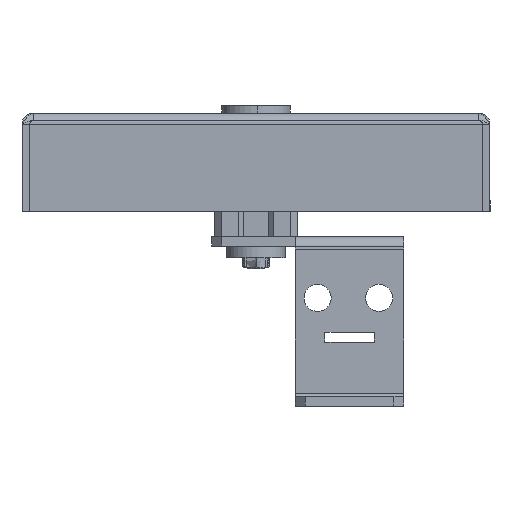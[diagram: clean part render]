
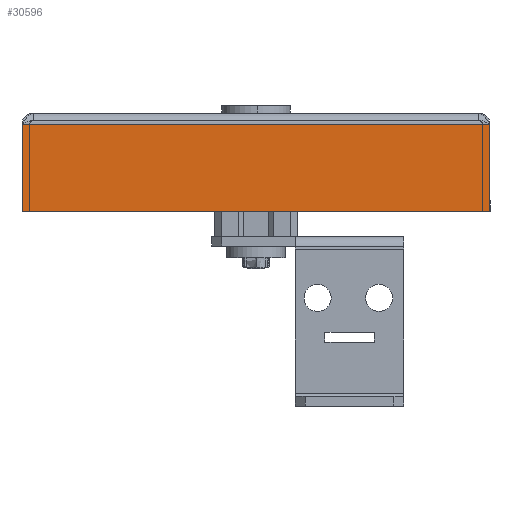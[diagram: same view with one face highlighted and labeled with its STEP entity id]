
A CAD part, left-side view. The second image highlights one B-rep face of the part: STEP entity #30596.
In plain terms, the highlighted planar face has unit normal (-1, 0, 0).
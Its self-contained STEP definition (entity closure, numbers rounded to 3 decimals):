
#22461=CARTESIAN_POINT(' ',(0.,0.,-2.3));
#22462=VERTEX_POINT(' ',#22461);
#22801=CARTESIAN_POINT(' ',(0.,95.,-2.3));
#22802=VERTEX_POINT(' ',#22801);
#27276=CARTESIAN_POINT(' ',(0.,95.,-2.3));
#27281=DIRECTION(' ',(0.,-1.,0.));
#27286=VECTOR(' ',#27281,1.);
#27291=LINE('',#27276,#27286);
#27296=EDGE_CURVE(' ',#22802,#22462,#27291,.T.);
#27361=CARTESIAN_POINT(' ',(0.,0.,-20.));
#27366=DIRECTION(' ',(0.,0.,1.));
#27371=VECTOR(' ',#27366,1.);
#27376=LINE('',#27361,#27371);
#27381=CARTESIAN_POINT(' ',(0.,0.,-20.));
#27382=VERTEX_POINT(' ',#27381);
#27386=EDGE_CURVE(' ',#27382,#22462,#27376,.T.);
#27471=CARTESIAN_POINT(' ',(0.,95.,-20.));
#27476=DIRECTION(' ',(0.,-1.,0.));
#27481=VECTOR(' ',#27476,1.);
#27486=LINE('',#27471,#27481);
#27491=CARTESIAN_POINT(' ',(0.,95.,-20.));
#27492=VERTEX_POINT(' ',#27491);
#27496=EDGE_CURVE(' ',#27492,#27382,#27486,.T.);
#27581=CARTESIAN_POINT(' ',(0.,95.,-20.));
#27586=DIRECTION(' ',(0.,0.,1.));
#27591=VECTOR(' ',#27586,1.);
#27596=LINE('',#27581,#27591);
#27601=EDGE_CURVE(' ',#27492,#22802,#27596,.T.);
#30541=DIRECTION(' ',(-1.,-0.,-0.));
#30546=CARTESIAN_POINT(' ',(0.,0.,-2.3));
#30551=DIRECTION(' ',(-0.,1.,0.));
#30556=AXIS2_PLACEMENT_3D(' ',#30546,#30541,#30551);
#30561=PLANE('NONE',#30556);
#30566=ORIENTED_EDGE(' ',*,*,#27386,.T.);
#30571=ORIENTED_EDGE(' ',*,*,#27296,.F.);
#30576=ORIENTED_EDGE(' ',*,*,#27601,.F.);
#30581=ORIENTED_EDGE(' ',*,*,#27496,.T.);
#30586=EDGE_LOOP(' ',(#30566,#30571,#30576,#30581));
#30591=FACE_OUTER_BOUND(' ',#30586,.T.);
#30596=ADVANCED_FACE('NONE',(#30591),#30561,.T.);
